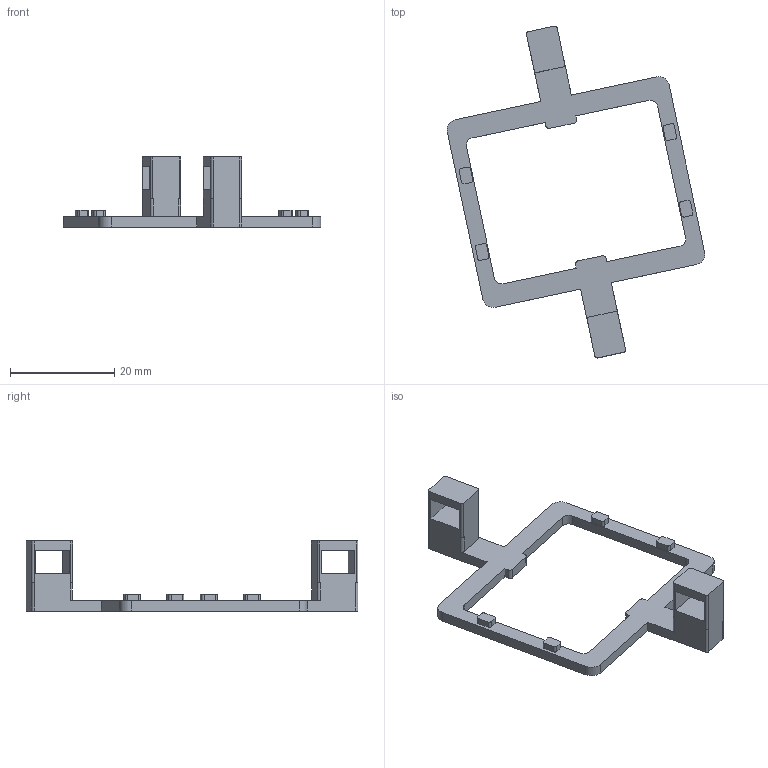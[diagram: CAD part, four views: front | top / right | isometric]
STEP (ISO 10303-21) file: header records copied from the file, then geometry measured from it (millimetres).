
FILE_DESCRIPTION(('Open CASCADE Model'),'2;1');
FILE_NAME('Open CASCADE Shape Model','2026-10-23T20:21:33',('Author'),( 'Open CASCADE'),'Open CASCADE STEP processor 7.8','Open CASCADE 7.8' ,'Unknown');
FILE_SCHEMA(('AUTOMOTIVE_DESIGN { 1 0 10303 214 1 1 1 1 }'));
Length unit declared in the file: millimetre
Products named in the file (1): Open CASCADE STEP translator 7.8 4
Bounding box: 49.45 x 63.7 x 13.45 mm (x, y, z)
Volume: 2185.2 mm3; surface area: 2917.2 mm2
Topology: 1 solids, 1 shells, 110 faces, 312 edges, 208 vertices
Faces by surface type: plane 66, cylinder 44
Entity records: 7764 total; most frequent: CARTESIAN_POINT 1459, DIRECTION 1212, LINE 760, VECTOR 760, ORIENTED_EDGE 624, PCURVE 624, DEFINITIONAL_REPRESENTATION 624, EDGE_CURVE 312
